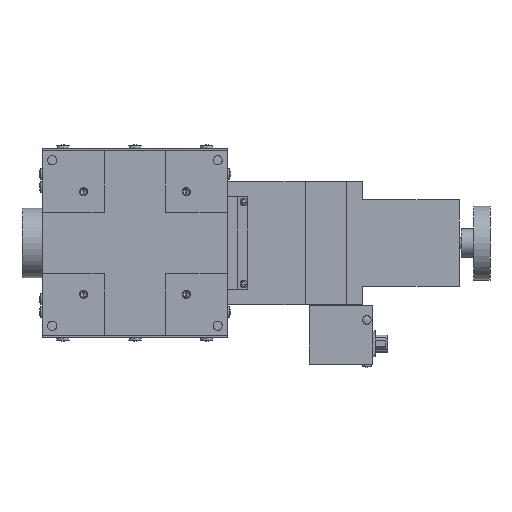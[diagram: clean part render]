
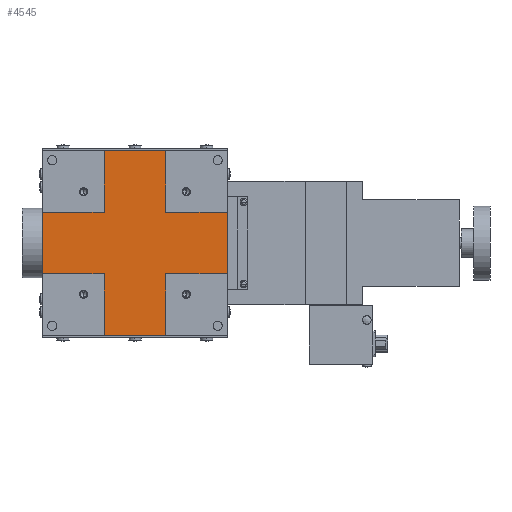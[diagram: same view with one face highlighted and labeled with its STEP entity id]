
A CAD part, front view. The second image highlights one B-rep face of the part: STEP entity #4545.
In plain terms, the highlighted planar face has unit normal (0, -1, 0) as drawn and (0, 0, -1) by its records, which use the part's own axes.
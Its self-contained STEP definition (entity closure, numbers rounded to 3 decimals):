
#581 = VECTOR ( 'NONE', #3228, 1000. ) ;
#585 = VECTOR ( 'NONE', #3238, 1000. ) ;
#593 = VECTOR ( 'NONE', #3258, 1000. ) ;
#597 = VECTOR ( 'NONE', #3268, 1000. ) ;
#3216 = LINE ( 'NONE', #3226, #581 ) ;
#3226 = CARTESIAN_POINT ( 'NONE',  ( 15., -45., 1. ) ) ;
#3227 = LINE ( 'NONE', #3237, #585 ) ;
#3228 = DIRECTION ( 'NONE',  ( 0., 1., 0. ) ) ;
#3237 = CARTESIAN_POINT ( 'NONE',  ( -15., -15., 1. ) ) ;
#3238 = DIRECTION ( 'NONE',  ( 0., -1., 0. ) ) ;
#3246 = LINE ( 'NONE', #3256, #593 ) ;
#3256 = CARTESIAN_POINT ( 'NONE',  ( -15., 45., 1. ) ) ;
#3257 = LINE ( 'NONE', #3267, #597 ) ;
#3258 = DIRECTION ( 'NONE',  ( 0., -1., 0. ) ) ;
#3267 = CARTESIAN_POINT ( 'NONE',  ( 15., 15., 1. ) ) ;
#3268 = DIRECTION ( 'NONE',  ( 0., 1., 0. ) ) ;
#3314 = LINE ( 'NONE', #3328, #3931 ) ;
#3328 = CARTESIAN_POINT ( 'NONE',  ( 45., -15., 1. ) ) ;
#3330 = DIRECTION ( 'NONE',  ( 0., 1., 0. ) ) ;
#3360 = LINE ( 'NONE', #3361, #3946 ) ;
#3361 = CARTESIAN_POINT ( 'NONE',  ( 45., 15., 1. ) ) ;
#3362 = DIRECTION ( 'NONE',  ( -1., 0., 0. ) ) ;
#3366 = LINE ( 'NONE', #3367, #3948 ) ;
#3367 = CARTESIAN_POINT ( 'NONE',  ( 15., -15., 1. ) ) ;
#3368 = DIRECTION ( 'NONE',  ( 1., 0., 0. ) ) ;
#3412 = LINE ( 'NONE', #3442, #3970 ) ;
#3442 = CARTESIAN_POINT ( 'NONE',  ( -45., 15., 1. ) ) ;
#3443 = DIRECTION ( 'NONE',  ( 0., -1., 0. ) ) ;
#3480 = LINE ( 'NONE', #3481, #3990 ) ;
#3481 = CARTESIAN_POINT ( 'NONE',  ( -15., -45., 1. ) ) ;
#3482 = DIRECTION ( 'NONE',  ( 1., 0., 0. ) ) ;
#3486 = LINE ( 'NONE', #3487, #3992 ) ;
#3487 = CARTESIAN_POINT ( 'NONE',  ( -45., -15., 1. ) ) ;
#3488 = DIRECTION ( 'NONE',  ( 1., 0., 0. ) ) ;
#3489 = LINE ( 'NONE', #3490, #3993 ) ;
#3490 = CARTESIAN_POINT ( 'NONE',  ( -15., 15., 1. ) ) ;
#3491 = DIRECTION ( 'NONE',  ( -1., 0., 0. ) ) ;
#3492 = LINE ( 'NONE', #3493, #3994 ) ;
#3493 = CARTESIAN_POINT ( 'NONE',  ( 15., 45., 1. ) ) ;
#3494 = DIRECTION ( 'NONE',  ( -1., 0., 0. ) ) ;
#3931 = VECTOR ( 'NONE', #3330, 1000. ) ;
#3946 = VECTOR ( 'NONE', #3362, 1000. ) ;
#3948 = VECTOR ( 'NONE', #3368, 1000. ) ;
#3970 = VECTOR ( 'NONE', #3443, 1000. ) ;
#3990 = VECTOR ( 'NONE', #3482, 1000. ) ;
#3992 = VECTOR ( 'NONE', #3488, 1000. ) ;
#3993 = VECTOR ( 'NONE', #3491, 1000. ) ;
#3994 = VECTOR ( 'NONE', #3494, 1000. ) ;
#4545 = ADVANCED_FACE ( 'NONE', ( #10341 ), #10342, .F. ) ;
#5016 = ORIENTED_EDGE ( 'NONE', *, *, #9065, .F. ) ;
#5017 = ORIENTED_EDGE ( 'NONE', *, *, #8984, .F. ) ;
#5018 = ORIENTED_EDGE ( 'NONE', *, *, #9067, .F. ) ;
#5019 = ORIENTED_EDGE ( 'NONE', *, *, #9052, .F. ) ;
#5020 = ORIENTED_EDGE ( 'NONE', *, *, #9068, .F. ) ;
#5021 = ORIENTED_EDGE ( 'NONE', *, *, #8990, .F. ) ;
#5022 = ORIENTED_EDGE ( 'NONE', *, *, #9069, .F. ) ;
#5023 = ORIENTED_EDGE ( 'NONE', *, *, #8994, .F. ) ;
#5024 = ORIENTED_EDGE ( 'NONE', *, *, #9025, .F. ) ;
#5025 = ORIENTED_EDGE ( 'NONE', *, *, #9014, .F. ) ;
#5026 = ORIENTED_EDGE ( 'NONE', *, *, #9027, .F. ) ;
#5027 = ORIENTED_EDGE ( 'NONE', *, *, #8980, .F. ) ;
#5815 = VERTEX_POINT ( 'NONE', #11024 ) ;
#5839 = VERTEX_POINT ( 'NONE', #11048 ) ;
#5840 = VERTEX_POINT ( 'NONE', #11049 ) ;
#5843 = VERTEX_POINT ( 'NONE', #11052 ) ;
#5844 = VERTEX_POINT ( 'NONE', #11053 ) ;
#5847 = VERTEX_POINT ( 'NONE', #11056 ) ;
#5848 = VERTEX_POINT ( 'NONE', #11057 ) ;
#5852 = VERTEX_POINT ( 'NONE', #11061 ) ;
#5863 = VERTEX_POINT ( 'NONE', #11072 ) ;
#5868 = VERTEX_POINT ( 'NONE', #11077 ) ;
#5886 = VERTEX_POINT ( 'NONE', #11095 ) ;
#5892 = VERTEX_POINT ( 'NONE', #11101 ) ;
#7820 = EDGE_LOOP ( 'NONE', ( #5016, #5017, #5018, #5019, #5020, #5021, #5022, #5023, #5024, #5025, #5026, #5027 ) ) ;
#8249 = AXIS2_PLACEMENT_3D ( 'NONE', #10331, #10344, #10345 ) ;
#8980 = EDGE_CURVE ( 'NONE', #5815, #5840, #3216, .T. ) ;
#8984 = EDGE_CURVE ( 'NONE', #5839, #5844, #3227, .T. ) ;
#8990 = EDGE_CURVE ( 'NONE', #5843, #5848, #3246, .T. ) ;
#8994 = EDGE_CURVE ( 'NONE', #5847, #5852, #3257, .T. ) ;
#9014 = EDGE_CURVE ( 'NONE', #5863, #5868, #3314, .T. ) ;
#9025 = EDGE_CURVE ( 'NONE', #5868, #5847, #3360, .T. ) ;
#9027 = EDGE_CURVE ( 'NONE', #5840, #5863, #3366, .T. ) ;
#9052 = EDGE_CURVE ( 'NONE', #5886, #5892, #3412, .T. ) ;
#9065 = EDGE_CURVE ( 'NONE', #5844, #5815, #3480, .T. ) ;
#9067 = EDGE_CURVE ( 'NONE', #5892, #5839, #3486, .T. ) ;
#9068 = EDGE_CURVE ( 'NONE', #5848, #5886, #3489, .T. ) ;
#9069 = EDGE_CURVE ( 'NONE', #5852, #5843, #3492, .T. ) ;
#10331 = CARTESIAN_POINT ( 'NONE',  ( 45., -45., 1. ) ) ;
#10341 = FACE_OUTER_BOUND ( 'NONE', #7820, .T. ) ;
#10342 = PLANE ( 'NONE',  #8249 ) ;
#10344 = DIRECTION ( 'NONE',  ( 0., 0., 1. ) ) ;
#10345 = DIRECTION ( 'NONE',  ( 0., 1., 0. ) ) ;
#11024 = CARTESIAN_POINT ( 'NONE',  ( 15., -45., 1. ) ) ;
#11048 = CARTESIAN_POINT ( 'NONE',  ( -15., -15., 1. ) ) ;
#11049 = CARTESIAN_POINT ( 'NONE',  ( 15., -15., 1. ) ) ;
#11052 = CARTESIAN_POINT ( 'NONE',  ( -15., 45., 1. ) ) ;
#11053 = CARTESIAN_POINT ( 'NONE',  ( -15., -45., 1. ) ) ;
#11056 = CARTESIAN_POINT ( 'NONE',  ( 15., 15., 1. ) ) ;
#11057 = CARTESIAN_POINT ( 'NONE',  ( -15., 15., 1. ) ) ;
#11061 = CARTESIAN_POINT ( 'NONE',  ( 15., 45., 1. ) ) ;
#11072 = CARTESIAN_POINT ( 'NONE',  ( 45., -15., 1. ) ) ;
#11077 = CARTESIAN_POINT ( 'NONE',  ( 45., 15., 1. ) ) ;
#11095 = CARTESIAN_POINT ( 'NONE',  ( -45., 15., 1. ) ) ;
#11101 = CARTESIAN_POINT ( 'NONE',  ( -45., -15., 1. ) ) ;
